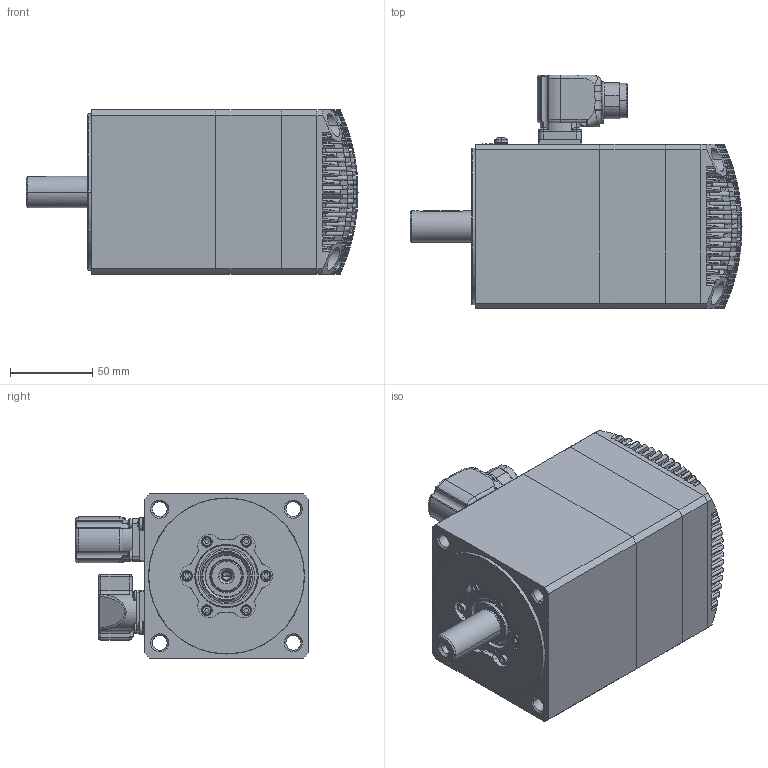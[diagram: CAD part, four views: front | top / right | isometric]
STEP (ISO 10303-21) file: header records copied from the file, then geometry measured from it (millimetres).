
FILE_DESCRIPTION((''),'2;1');
FILE_NAME('53346N-0_SW0001','2015-10-19T',('hegenwang'),(''),'PRO/ENGINEER BY PARAMETRIC TECHNOLOGY CORPORATION, 2010430','PRO/ENGINEER BY PARAMETRIC TECHNOLOGY CORPORATION, 2010430','');
FILE_SCHEMA(('AUTOMOTIVE_DESIGN_CC2 { 1 2 10303 214 -1 1 5 2 }'));
Products named in the file (1): 53346N-0_SW0001
Bounding box: 202 x 142.01 x 100.02 mm (x, y, z)
Surface area: 169098.1 mm2 (no closed solid volume)
Topology: 0 solids, 76 shells, 1598 faces, 4227 edges, 2808 vertices
Faces by surface type: plane 658, cone 379, cylinder 292, sphere 223, bspline 23, torus 23
Entity records: 82988 total; most frequent: CARTESIAN_POINT 21054, DIRECTION 8139, ORIENTED_EDGE 7989, PRESENTATION_STYLE_ASSIGNMENT 5624, STYLED_ITEM 4248, CURVE_STYLE 4213, EDGE_CURVE 4213, AXIS2_PLACEMENT_3D 3163
